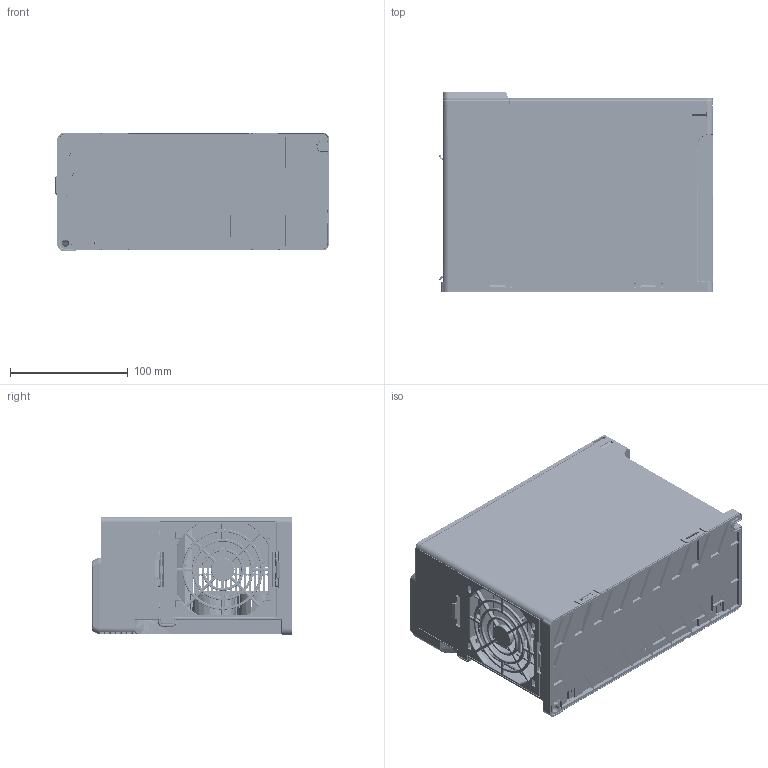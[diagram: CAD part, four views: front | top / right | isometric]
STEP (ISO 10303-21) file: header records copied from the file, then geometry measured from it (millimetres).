
FILE_DESCRIPTION(/* description */ (''),/* implementation_level */ '2;1');
FILE_NAME(/* name */ 'Veda VF-11 T4 C3.stp',/* time_stamp */ '2025-10-18T11:02:25+04:00',/* author */ ('Александр (огранич)'),/* organization */ (''),/* preprocessor_version */ 'ST-DEVELOPER v19.2',/* originating_system */ 'Autodesk Inventor 2024',/* authorisation */ '');
FILE_SCHEMA (('AUTOMOTIVE_DESIGN { 1 0 10303 214 3 1 1 }'));
Products named in the file (18): 00-AC01-T3-7R5G_ASM; AC01-T3-7R5G-D_ASM; AC01-T3-7R5G-MAIN_PCB_ASM; EU1_5-XX-5_08-03B_0420; ELT-TB1100-01-8P; RJ45-180D; AC01-T3-7R5G-VEDA-P_ASM; AC01-T3-7R5G-VEDA-P005_ASM; AC01-T3-7R5G-VEDA-P001; AC01-S2-R75G-P003; AC01-T3-7R5G-VEDA-P002; AC01-T3-7R5G-VEDA-P003; AC01-T3-7R5G-VEDA-P004; AC01-T3-004G-P005; KBD01-15_ASM; KBD01-15-VEDA-P001; KBD01-15-VEDA-F001; KBD01-15-N001
Assembly tree (17 placements, depth 4):
  00-AC01-T3-7R5G_ASM
    AC01-T3-7R5G-D_ASM
      AC01-T3-7R5G-MAIN_PCB_ASM
        EU1_5-XX-5_08-03B_0420
        ELT-TB1100-01-8P
        RJ45-180D
    AC01-T3-7R5G-VEDA-P_ASM
      AC01-T3-7R5G-VEDA-P005_ASM
        AC01-T3-7R5G-VEDA-P001
        AC01-S2-R75G-P003
      AC01-T3-7R5G-VEDA-P002
      AC01-T3-7R5G-VEDA-P003
      AC01-T3-7R5G-VEDA-P004
      AC01-T3-004G-P005
    KBD01-15_ASM
      KBD01-15-VEDA-P001
      KBD01-15-VEDA-F001
      KBD01-15-N001
Bounding box: 232.95 x 170.8 x 101 mm (x, y, z)
Volume: 402587.3 mm3; surface area: 597340 mm2
Topology: 39 solids, 84 shells, 13781 faces, 40529 edges, 30631 vertices
Faces by surface type: plane 10061, cone 1229, cylinder 1203, bspline 1118, torus 156, sphere 14
Full cylindrical faces by diameter (mm): 0.5 x8, 0.8 x6, 1.3 x6, 2 x4, 2.2 x14, 2.3 x2, 2.5 x29, 3 x84, 3.15 x14, 3.4 x8, 4 x28, 7.5 x1, 8.4 x1
Entity records: 592648 total; most frequent: CARTESIAN_POINT 236721, ORIENTED_EDGE 75078, DIRECTION 66344, EDGE_CURVE 37557, LINE 28814, VECTOR 28814, VERTEX_POINT 24716, AXIS2_PLACEMENT_3D 18765
